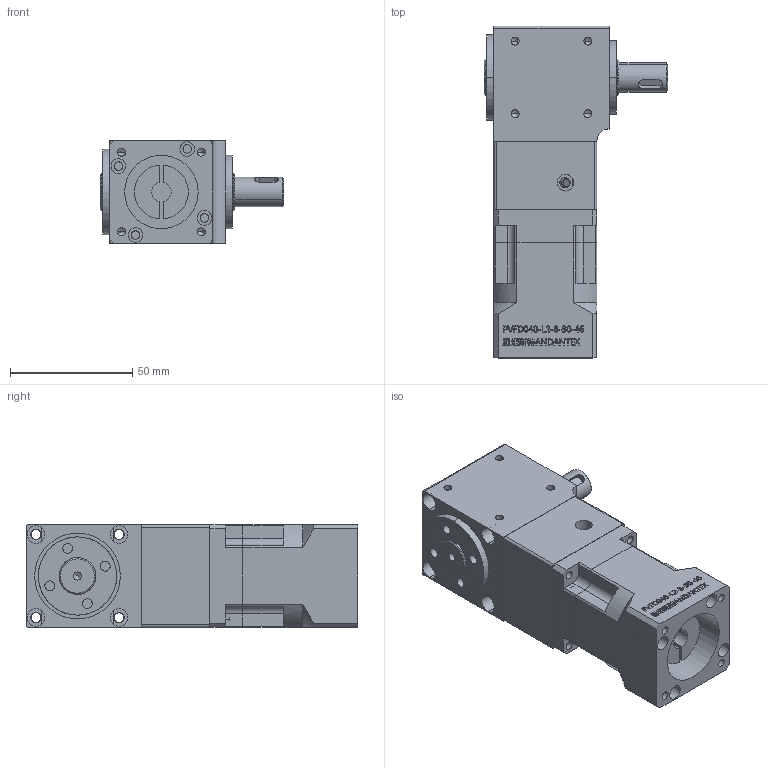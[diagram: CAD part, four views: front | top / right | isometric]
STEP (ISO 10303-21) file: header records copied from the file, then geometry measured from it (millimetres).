
FILE_DESCRIPTION (( 'STEP AP203' ), '1' );
FILE_NAME ('PVFD040-L2-8-30-46.STEP', '2025-06-13T08:10:01', ( 'Windows User' ), ( 'P R C' ), 'SwSTEP 2.0', 'SolidWorks 2016', '' );
FILE_SCHEMA (( 'CONFIG_CONTROL_DESIGN' ));
Length unit declared in the file: millimetre
Products named in the file (13): PVFD040单轴（台达100W）; 输入轴; PVFD040-L1-10粣(8-25-30-1.6-4-4.5-46); 蹟譫; PVFD040-L2-8-30-46; 蹟譫ㄗ2ㄘ; 標杶ㄗ1ㄘ; deep groove ball bearings gb_Rolling bearings 6001 GB 276-94; deep groove ball bearings gb_Rolling bearings 6002 GB 276-94; deep groove ball bearings gb_Rolling bearings 61902 GB 276-94; 褲极; 綴楊擘ㄗ怢湛100Wㄘ; 怀堤粣ㄗ等粣ㄘ
Assembly tree (12 placements, depth 3):
  PVFD040-L2-8-30-46
    PVFD040单轴（台达100W）
      褲极
      怀堤粣ㄗ等粣ㄘ
      输入轴
      蹟譫
      蹟譫ㄗ2ㄘ
      標杶ㄗ1ㄘ
      deep groove ball bearings gb_Rolling bearings 6001 GB 276-94
      deep groove ball bearings gb_Rolling bearings 6002 GB 276-94
      deep groove ball bearings gb_Rolling bearings 61902 GB 276-94
      綴楊擘ㄗ怢湛100Wㄘ
    PVFD040-L1-10粣(8-25-30-1.6-4-4.5-46)
Bounding box: 75 x 135.5 x 42 mm (x, y, z)
Volume: 191622.6 mm3; surface area: 79857.5 mm2
Topology: 14 solids, 14 shells, 1410 faces, 4000 edges, 2603 vertices
Faces by surface type: plane 558, bspline 431, cylinder 337, cone 84
Entity records: 60577 total; most frequent: CARTESIAN_POINT 25271, ORIENTED_EDGE 7892, DIRECTION 5907, EDGE_CURVE 3946, VERTEX_POINT 2602, AXIS2_PLACEMENT_3D 2080, VECTOR 1747, LINE 1747
